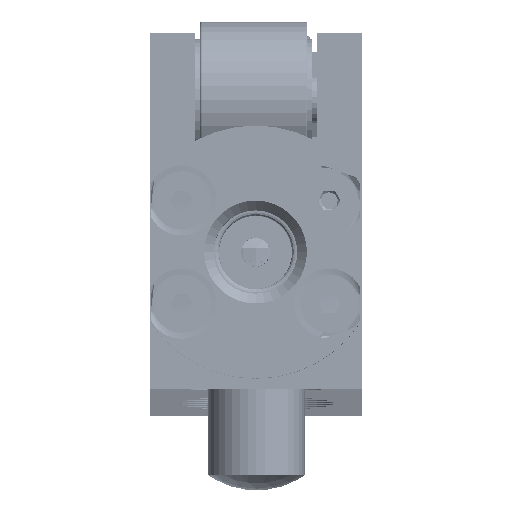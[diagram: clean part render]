
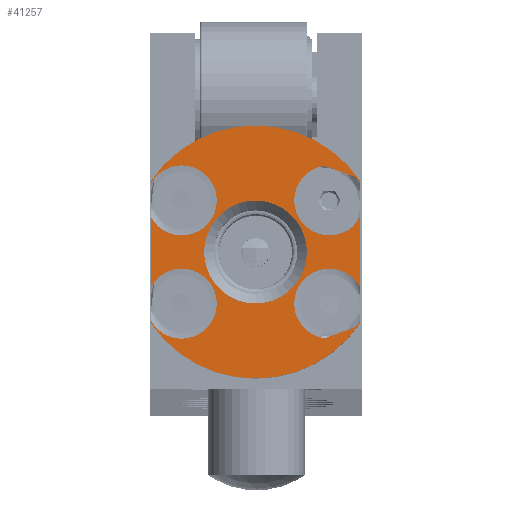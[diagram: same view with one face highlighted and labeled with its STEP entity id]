
A CAD part, top view. The second image highlights one B-rep face of the part: STEP entity #41257.
In plain terms, the highlighted planar face has unit normal (0, 0, 1).
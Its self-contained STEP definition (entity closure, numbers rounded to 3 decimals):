
#1498=FACE_BOUND('',#6451,.T.);
#1863=PLANE('',#45179);
#3940=FACE_OUTER_BOUND('',#6450,.T.);
#6450=EDGE_LOOP('',(#31281,#31282,#31283,#31284,#31285,#31286,#31287,#31288,
#31289,#31290,#31291,#31292,#31293,#31294,#31295,#31296));
#6451=EDGE_LOOP('',(#31297));
#8636=LINE('',#74216,#10167);
#8637=LINE('',#74219,#10168);
#8638=LINE('',#74223,#10169);
#8639=LINE('',#74227,#10170);
#8640=LINE('',#74231,#10171);
#8641=LINE('',#74235,#10172);
#8642=LINE('',#74239,#10173);
#8643=LINE('',#74242,#10174);
#10167=VECTOR('',#54899,10.);
#10168=VECTOR('',#54902,10.);
#10169=VECTOR('',#54905,10.);
#10170=VECTOR('',#54908,10.);
#10171=VECTOR('',#54911,10.);
#10172=VECTOR('',#54914,10.);
#10173=VECTOR('',#54917,10.);
#10174=VECTOR('',#54920,10.);
#12284=CIRCLE('',#45172,3.6);
#12287=CIRCLE('',#45175,3.6);
#12289=CIRCLE('',#45180,3.6);
#12290=CIRCLE('',#45181,3.6);
#12291=CIRCLE('',#45182,13.);
#12292=CIRCLE('',#45183,3.6);
#12293=CIRCLE('',#45184,3.6);
#12294=CIRCLE('',#45185,13.);
#12295=CIRCLE('',#45186,5.283);
#16835=VERTEX_POINT('',#74190);
#16836=VERTEX_POINT('',#74191);
#16837=VERTEX_POINT('',#74195);
#16841=VERTEX_POINT('',#74206);
#16843=VERTEX_POINT('',#74218);
#16844=VERTEX_POINT('',#74220);
#16845=VERTEX_POINT('',#74222);
#16846=VERTEX_POINT('',#74224);
#16847=VERTEX_POINT('',#74226);
#16848=VERTEX_POINT('',#74228);
#16849=VERTEX_POINT('',#74230);
#16850=VERTEX_POINT('',#74232);
#16851=VERTEX_POINT('',#74234);
#16852=VERTEX_POINT('',#74236);
#16853=VERTEX_POINT('',#74238);
#16854=VERTEX_POINT('',#74240);
#16855=VERTEX_POINT('',#74243);
#22129=EDGE_CURVE('',#16837,#16835,#12284,.T.);
#22135=EDGE_CURVE('',#16836,#16841,#12287,.T.);
#22138=EDGE_CURVE('',#16841,#16837,#8636,.T.);
#22139=EDGE_CURVE('',#16835,#16843,#8637,.T.);
#22140=EDGE_CURVE('',#16843,#16844,#12289,.T.);
#22141=EDGE_CURVE('',#16844,#16845,#8638,.T.);
#22142=EDGE_CURVE('',#16845,#16846,#12290,.T.);
#22143=EDGE_CURVE('',#16846,#16847,#8639,.T.);
#22144=EDGE_CURVE('',#16848,#16847,#12291,.T.);
#22145=EDGE_CURVE('',#16848,#16849,#8640,.T.);
#22146=EDGE_CURVE('',#16849,#16850,#12292,.T.);
#22147=EDGE_CURVE('',#16850,#16851,#8641,.T.);
#22148=EDGE_CURVE('',#16851,#16852,#12293,.T.);
#22149=EDGE_CURVE('',#16852,#16853,#8642,.T.);
#22150=EDGE_CURVE('',#16854,#16853,#12294,.T.);
#22151=EDGE_CURVE('',#16854,#16836,#8643,.T.);
#22152=EDGE_CURVE('',#16855,#16855,#12295,.T.);
#31281=ORIENTED_EDGE('',*,*,#22135,.T.);
#31282=ORIENTED_EDGE('',*,*,#22138,.T.);
#31283=ORIENTED_EDGE('',*,*,#22129,.T.);
#31284=ORIENTED_EDGE('',*,*,#22139,.T.);
#31285=ORIENTED_EDGE('',*,*,#22140,.T.);
#31286=ORIENTED_EDGE('',*,*,#22141,.T.);
#31287=ORIENTED_EDGE('',*,*,#22142,.T.);
#31288=ORIENTED_EDGE('',*,*,#22143,.T.);
#31289=ORIENTED_EDGE('',*,*,#22144,.F.);
#31290=ORIENTED_EDGE('',*,*,#22145,.T.);
#31291=ORIENTED_EDGE('',*,*,#22146,.T.);
#31292=ORIENTED_EDGE('',*,*,#22147,.T.);
#31293=ORIENTED_EDGE('',*,*,#22148,.T.);
#31294=ORIENTED_EDGE('',*,*,#22149,.T.);
#31295=ORIENTED_EDGE('',*,*,#22150,.F.);
#31296=ORIENTED_EDGE('',*,*,#22151,.T.);
#31297=ORIENTED_EDGE('',*,*,#22152,.F.);
#41257=ADVANCED_FACE('',(#3940,#1498),#1863,.T.);
#45172=AXIS2_PLACEMENT_3D('',#74196,#54883,#54884);
#45175=AXIS2_PLACEMENT_3D('',#74210,#54890,#54891);
#45179=AXIS2_PLACEMENT_3D('',#74217,#54900,#54901);
#45180=AXIS2_PLACEMENT_3D('',#74221,#54903,#54904);
#45181=AXIS2_PLACEMENT_3D('',#74225,#54906,#54907);
#45182=AXIS2_PLACEMENT_3D('',#74229,#54909,#54910);
#45183=AXIS2_PLACEMENT_3D('',#74233,#54912,#54913);
#45184=AXIS2_PLACEMENT_3D('',#74237,#54915,#54916);
#45185=AXIS2_PLACEMENT_3D('',#74241,#54918,#54919);
#45186=AXIS2_PLACEMENT_3D('',#74244,#54921,#54922);
#54883=DIRECTION('center_axis',(0.,0.,-1.));
#54884=DIRECTION('ref_axis',(-0.342,0.94,0.));
#54890=DIRECTION('center_axis',(0.,0.,-1.));
#54891=DIRECTION('ref_axis',(-0.342,0.94,0.));
#54899=DIRECTION('',(-0.94,-0.342,0.));
#54900=DIRECTION('center_axis',(0.,0.,1.));
#54901=DIRECTION('ref_axis',(1.,0.,0.));
#54902=DIRECTION('',(0.,1.,0.));
#54903=DIRECTION('center_axis',(0.,0.,-1.));
#54904=DIRECTION('ref_axis',(-0.342,-0.94,0.));
#54905=DIRECTION('',(0.94,-0.342,0.));
#54906=DIRECTION('center_axis',(0.,0.,-1.));
#54907=DIRECTION('ref_axis',(-0.342,-0.94,0.));
#54908=DIRECTION('',(0.,1.,0.));
#54909=DIRECTION('center_axis',(0.,0.,-1.));
#54910=DIRECTION('ref_axis',(0.,1.,0.));
#54911=DIRECTION('',(0.,-1.,0.));
#54912=DIRECTION('center_axis',(0.,0.,-1.));
#54913=DIRECTION('ref_axis',(1.,0.,0.));
#54914=DIRECTION('',(0.,-1.,0.));
#54915=DIRECTION('center_axis',(0.,0.,-1.));
#54916=DIRECTION('ref_axis',(1.,0.,0.));
#54917=DIRECTION('',(0.,-1.,0.));
#54918=DIRECTION('center_axis',(0.,0.,-1.));
#54919=DIRECTION('ref_axis',(0.,1.,0.));
#54920=DIRECTION('',(0.,1.,0.));
#54921=DIRECTION('center_axis',(0.,0.,1.));
#54922=DIRECTION('ref_axis',(-1.,0.,0.));
#74190=CARTESIAN_POINT('',(10.7,-7.855,1216.));
#74191=CARTESIAN_POINT('',(10.7,-11.256,1216.));
#74195=CARTESIAN_POINT('',(7.014,-13.119,1216.));
#74196=CARTESIAN_POINT('Origin',(7.527,-9.556,1216.));
#74206=CARTESIAN_POINT('',(10.211,-11.955,1216.));
#74210=CARTESIAN_POINT('Origin',(7.527,-9.556,1216.));
#74216=CARTESIAN_POINT('',(8.106,-12.721,1216.));
#74217=CARTESIAN_POINT('Origin',(-0.05,2.25,1216.));
#74218=CARTESIAN_POINT('',(10.7,-0.645,1216.));
#74219=CARTESIAN_POINT('',(10.7,-4.655,1216.));
#74220=CARTESIAN_POINT('',(7.014,4.619,1216.));
#74221=CARTESIAN_POINT('Origin',(7.527,1.056,1216.));
#74222=CARTESIAN_POINT('',(10.211,3.455,1216.));
#74223=CARTESIAN_POINT('',(6.017,4.982,1216.));
#74224=CARTESIAN_POINT('',(10.7,2.756,1216.));
#74225=CARTESIAN_POINT('Origin',(7.527,1.056,1216.));
#74226=CARTESIAN_POINT('',(10.7,3.06,1216.));
#74227=CARTESIAN_POINT('',(10.7,-4.655,1216.));
#74228=CARTESIAN_POINT('',(-10.8,3.06,1216.));
#74229=CARTESIAN_POINT('Origin',(-0.05,-4.25,1216.));
#74230=CARTESIAN_POINT('',(-10.8,2.756,1216.));
#74231=CARTESIAN_POINT('',(-10.8,2.655,1216.));
#74232=CARTESIAN_POINT('',(-10.8,-0.645,1216.));
#74233=CARTESIAN_POINT('Origin',(-7.627,1.056,1216.));
#74234=CARTESIAN_POINT('',(-10.8,-7.855,1216.));
#74235=CARTESIAN_POINT('',(-10.8,2.655,1216.));
#74236=CARTESIAN_POINT('',(-10.8,-11.256,1216.));
#74237=CARTESIAN_POINT('Origin',(-7.627,-9.556,1216.));
#74238=CARTESIAN_POINT('',(-10.8,-11.56,1216.));
#74239=CARTESIAN_POINT('',(-10.8,2.655,1216.));
#74240=CARTESIAN_POINT('',(10.7,-11.56,1216.));
#74241=CARTESIAN_POINT('Origin',(-0.05,-4.25,1216.));
#74242=CARTESIAN_POINT('',(10.7,-4.655,1216.));
#74243=CARTESIAN_POINT('',(5.233,-4.25,1216.));
#74244=CARTESIAN_POINT('Origin',(-0.05,-4.25,1216.));
